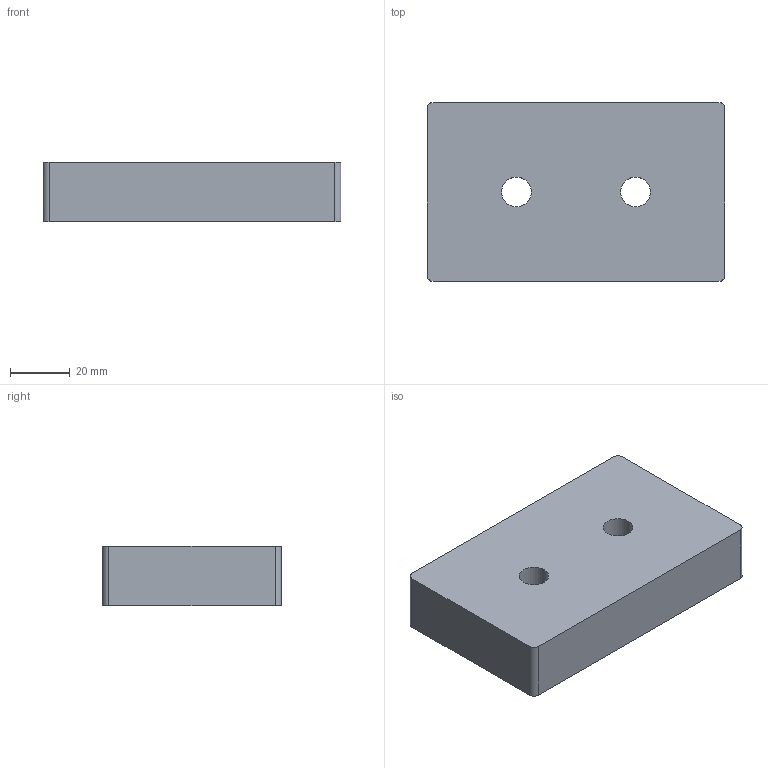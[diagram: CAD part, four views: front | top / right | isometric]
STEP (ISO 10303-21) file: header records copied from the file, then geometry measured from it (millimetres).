
FILE_DESCRIPTION(('Open CASCADE Model'),'2;1');
FILE_NAME('Open CASCADE Shape Model','2026-03-24T09:37:59',('Author'),( 'Open CASCADE'),'Open CASCADE STEP processor 7.8','Open CASCADE 7.8' ,'Unknown');
FILE_SCHEMA(('AUTOMOTIVE_DESIGN { 1 0 10303 214 1 1 1 1 }'));
Length unit declared in the file: millimetre
Products named in the file (1): Open CASCADE STEP translator 7.8 1
Bounding box: 100 x 60 x 20 mm (x, y, z)
Volume: 116789.7 mm3; surface area: 19266.9 mm2
Topology: 1 solids, 1 shells, 12 faces, 30 edges, 20 vertices
Faces by surface type: plane 6, cylinder 6
Full cylindrical faces by diameter (mm): 10 x2
Entity records: 798 total; most frequent: CARTESIAN_POINT 171, DIRECTION 120, LINE 66, VECTOR 66, ORIENTED_EDGE 60, PCURVE 60, DEFINITIONAL_REPRESENTATION 60, EDGE_CURVE 30
